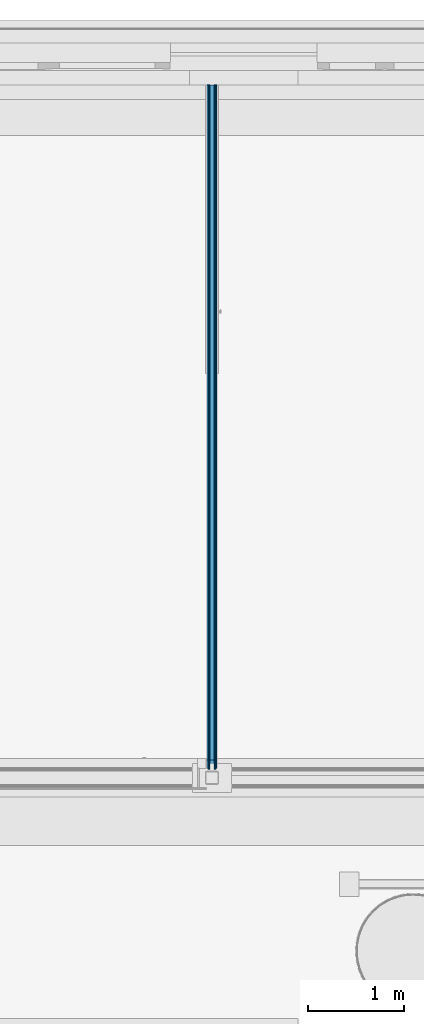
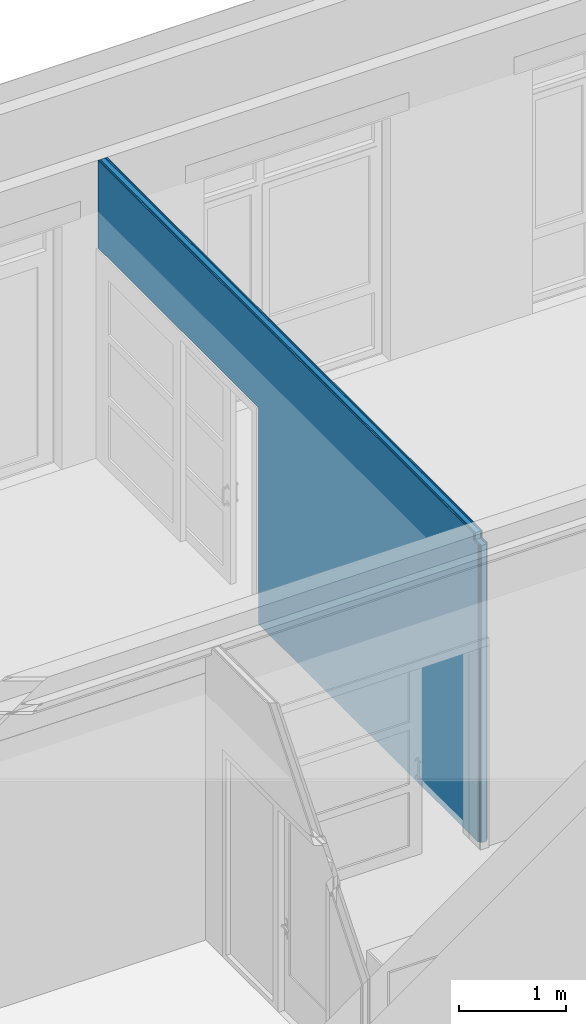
# One storey, part 395 of 788: 5 building element parts, 1 opening, 1 element without a shape of its own.
"""IFC2X3 building model written with IfcOpenShell, lengths in millimetres."""

import ifcopenshell
import ifcopenshell.guid

model = None  # the IFC model being written
_history = None  # IfcOwnerHistory: only IFC2X3 demands one
_inside = {}  # id of a spatial element -> (the spatial element, [elements in it])
_under = {}  # id of a project, library or spatial element -> (it, [spatial elements below it])
_declared = {}  # id of a project -> (the project, [libraries it declares])
_typed = {}  # id of a type object -> (the type object, [elements of that type])
_made_of = {}  # id of a material, layer set ... -> (it, [elements and type objects made of it])


def new_model(schema):
    """Start an empty IFC model of exactly this schema.

    Asked for "IFC4X3", IfcOpenShell would pick the latest addendum, in which some entities
    have other attributes; the version numbers below select the first issue.
    IFC2X3 requires an IfcOwnerHistory on every rooted entity: one is made here for all.
    """
    global model, _history
    if schema == "IFC4X3":
        model = ifcopenshell.file(schema_version=(4, 3, 0, 0))
    else:
        model = ifcopenshell.file(schema=schema)
    _inside.clear()
    _under.clear()
    _declared.clear()
    _typed.clear()
    _made_of.clear()
    _history = None
    if model.schema == "IFC2X3":
        org = make("IfcOrganization", Name="unknown")
        user = make(
            "IfcPersonAndOrganization",
            ThePerson=make("IfcPerson", FamilyName="unknown"),
            TheOrganization=org,
        )
        app = make(
            "IfcApplication",
            ApplicationDeveloper=org,
            Version="unknown",
            ApplicationFullName="unknown",
            ApplicationIdentifier="unknown",
        )
        _history = make(
            "IfcOwnerHistory",
            OwningUser=user,
            OwningApplication=app,
            ChangeAction="ADDED",
            CreationDate=0,
        )
    return model


def make(cls, **values):
    """One entity of the class cls with the attributes given. An attribute that is None is left unset."""
    return model.create_entity(
        cls, **{name: value for name, value in values.items() if value is not None}
    )


def entity(cls, *values):
    """Any entity or typed value of the class cls, its attributes in the order of the schema. None: left unset."""
    e = model.create_entity(cls)
    for i, value in enumerate(values):
        if value is not None:
            e[i] = value
    return e


def rooted(cls, **values):
    """An entity with a GlobalId (a new one), such as an element, a storey or a relation."""
    return make(cls, GlobalId=ifcopenshell.guid.new(), OwnerHistory=_history, **values)


def si_unit(unit_type, name, prefix=None):
    """IfcSIUnit, for example si_unit("LENGTHUNIT", "METRE", prefix="MILLI")."""
    return make("IfcSIUnit", UnitType=unit_type, Prefix=prefix, Name=name)


def converted_unit(unit_type, name, factor, base, dimensions=None, offset=None):
    """IfcConversionBasedUnit, such as the inch: factor (a typed value) times the base unit."""
    return make(
        "IfcConversionBasedUnit"
        if offset is None
        else "IfcConversionBasedUnitWithOffset",
        ConversionOffset=offset,
        Dimensions=None
        if dimensions is None
        else entity("IfcDimensionalExponents", *dimensions),
        UnitType=unit_type,
        Name=name,
        ConversionFactor=make(
            "IfcMeasureWithUnit", ValueComponent=factor, UnitComponent=base
        ),
    )


def derived_unit(unit_type, elements):
    """IfcDerivedUnit: a product of units, each with its exponent."""
    return make(
        "IfcDerivedUnit",
        Elements=[
            make("IfcDerivedUnitElement", Unit=unit, Exponent=power)
            for unit, power in elements
        ],
        UnitType=unit_type,
    )


def money_unit(currency):
    """IfcMonetaryUnit."""
    return make("IfcMonetaryUnit", Currency=currency)


def assignment(units):
    """IfcUnitAssignment: the units of a project."""
    return None if units is None else make("IfcUnitAssignment", Units=units)


def point(xyz):
    """IfcCartesianPoint."""
    return None if xyz is None else make("IfcCartesianPoint", Coordinates=xyz)


def direction(xyz):
    """IfcDirection."""
    return None if xyz is None else make("IfcDirection", DirectionRatios=xyz)


def frame(location, z_axis=None, x_axis=None):
    """IfcAxis2Placement3D, a coordinate frame: its origin and axes. An axis left out is left unset."""
    return make(
        "IfcAxis2Placement3D",
        Location=point(location),
        Axis=direction(z_axis),
        RefDirection=direction(x_axis),
    )


def origin_with_axes():
    """The frame at (0, 0, 0) with the z axis (0, 0, 1) and the x axis (1, 0, 0) written out."""
    return frame((0.0, 0.0, 0.0), z_axis=(0.0, 0.0, 1.0), x_axis=(1.0, 0.0, 0.0))


def place(relative_to, where):
    """IfcLocalPlacement: puts the frame where relative to a parent placement (None: the world)."""
    return make(
        "IfcLocalPlacement", PlacementRelTo=relative_to, RelativePlacement=where
    )


def context(
    kind, dimensions, precision=None, world=None, true_north=None, identifier=None
):
    """IfcGeometricRepresentationContext, for example the 3D "Model" context."""
    return make(
        "IfcGeometricRepresentationContext",
        ContextIdentifier=identifier,
        ContextType=kind,
        CoordinateSpaceDimension=dimensions,
        Precision=precision,
        WorldCoordinateSystem=world,
        TrueNorth=true_north,
    )


def subcontext(parent, identifier, kind, view, scale=None):
    """IfcGeometricRepresentationSubContext, for example "Body" below "Model"."""
    return make(
        "IfcGeometricRepresentationSubContext",
        ContextIdentifier=identifier,
        ContextType=kind,
        ParentContext=parent,
        TargetScale=scale,
        TargetView=view,
    )


def project(units=None, contexts=None):
    """IfcProject with its units and contexts."""
    return rooted(
        "IfcProject",
        Name="project",
        RepresentationContexts=contexts,
        UnitsInContext=assignment(units),
    )


def spatial(cls, under=None, at=None, **own):
    """A site, building, storey or space (cls), placed at a placement, below another one or the project."""
    s = rooted(cls, ObjectPlacement=at, **own)
    if under is not None:
        _under.setdefault(under.id(), (under, []))[1].append(s)
    return s


def faces_of(points, faces, orient=None, outer=None):
    """IfcFace entities. A face is a list of loops; a loop is a list of indices into points, from 0.

    orient and outer hold one flag for each loop. By default every Orientation is true, the
    first loop of a face is its IfcFaceOuterBound and the others are IfcFaceBound.
    """
    made = []
    for i, loops in enumerate(faces):
        bounds = []
        for j, loop in enumerate(loops):
            is_outer = j == 0 if outer is None else outer[i][j]
            bounds.append(
                make(
                    "IfcFaceOuterBound" if is_outer else "IfcFaceBound",
                    Bound=make("IfcPolyLoop", Polygon=[points[k] for k in loop]),
                    Orientation=True if orient is None else orient[i][j],
                )
            )
        made.append(make("IfcFace", Bounds=bounds))
    return made


def faceted_brep(points, faces, orient=None, outer=None, voids=None):
    """IfcFacetedBrep: a solid bounded by flat faces; with voids (closed shells), ...WithVoids."""
    shared = [point(p) for p in points]
    hull = make("IfcClosedShell", CfsFaces=faces_of(shared, faces, orient, outer))
    if voids is None:
        return make("IfcFacetedBrep", Outer=hull)
    return make(
        "IfcFacetedBrepWithVoids",
        Outer=hull,
        Voids=[
            make(cls, CfsFaces=faces_of(shared, fs, o, b)) for cls, fs, o, b in voids
        ],
    )


def shape(context_of_items, identifier, shape_type, items):
    """IfcShapeRepresentation: the items that make up one representation, for example the "Body"."""
    return make(
        "IfcShapeRepresentation",
        ContextOfItems=context_of_items,
        RepresentationIdentifier=identifier,
        RepresentationType=shape_type,
        Items=items,
    )


def material(Name=None, Category=None):
    """IfcMaterial."""
    return make("IfcMaterial", Name=Name, Category=Category)


def made_of(thing, what):
    """Note that an element or type object is made of a material, layer set ...; save() writes the relation."""
    if what is not None:
        _made_of.setdefault(what.id(), (what, []))[1].append(thing)
    return thing


def type_object(cls, material=None, **own):
    """A type object (cls), such as IfcWallType, which elements share."""
    return made_of(rooted(cls, **own), material)


def element(
    cls,
    number,
    at=None,
    inside=None,
    cuts=None,
    type_object=None,
    material=None,
    context=None,
    identifier="Body",
    shape_type=None,
    held_by="IfcProductDefinitionShape",
    body=None,
    shapes=None,
    **own,
):
    """One element of the class cls, such as IfcWall. Its Tag is "e" and its number.

    at: its placement. inside: the storey or other place that contains it. cuts: it is an
    opening in that element (IfcRelVoidsElement). A single representation is given by context,
    identifier, shape_type and body (its items); several are given by shapes. held_by: the class
    of the entity that holds the representations. save() writes the other relations.
    """
    e = rooted(cls, Tag="e%d" % number, ObjectPlacement=at, **own)
    if body is not None:
        shapes = [shape(context, identifier, shape_type, body)]
    if shapes is not None:
        e.Representation = make(held_by, Representations=shapes)
    if inside is not None:
        _inside.setdefault(inside.id(), (inside, []))[1].append(e)
    if cuts is not None:
        rooted(
            "IfcRelVoidsElement", RelatingBuildingElement=cuts, RelatedOpeningElement=e
        )
    if type_object is not None:
        _typed.setdefault(type_object.id(), (type_object, []))[1].append(e)
    return made_of(e, material)


def aggregate(whole, parts):
    """IfcRelAggregates: a whole, such as a stair, and the parts it consists of."""
    return rooted("IfcRelAggregates", RelatingObject=whole, RelatedObjects=parts)


def save(model, path):
    """Write the relations noted so far, then the file.

    IfcRelAggregates (storeys below a building ...), IfcRelContainedInSpatialStructure (elements
    in a storey), IfcRelDefinesByType, IfcRelAssociatesMaterial and IfcRelDeclares: one each for
    every whole, place, type object, material and project.
    """
    for whole, parts in _under.values():
        aggregate(whole, parts)
    for where, things in _inside.values():
        rooted(
            "IfcRelContainedInSpatialStructure",
            RelatedElements=things,
            RelatingStructure=where,
        )
    for kind, things in _typed.values():
        rooted("IfcRelDefinesByType", RelatedObjects=things, RelatingType=kind)
    for what, things in _made_of.values():
        rooted("IfcRelAssociatesMaterial", RelatedObjects=things, RelatingMaterial=what)
    for by, libraries in _declared.values():
        rooted("IfcRelDeclares", RelatingContext=by, RelatedDefinitions=libraries)
    model.write(path)


model = new_model("IFC2X3")

# Units and contexts
model_context = context("Model", 3, precision=0.01, world=origin_with_axes(), true_north=direction((0.0, 1.0)))
plan_context = context("Plan", 3, precision=0.01, world=origin_with_axes(), true_north=direction((0.0, 1.0)))
body_context = subcontext(model_context, "Body", "Model", "MODEL_VIEW")
ifc_project = project(units=[si_unit("LENGTHUNIT", "METRE", prefix="MILLI"), si_unit("AREAUNIT", "SQUARE_METRE"), si_unit("VOLUMEUNIT", "CUBIC_METRE"), converted_unit("PLANEANGLEUNIT", "DEGREE", entity("IfcPlaneAngleMeasure", 0.0174532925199), si_unit("PLANEANGLEUNIT", "RADIAN"), dimensions=[0, 0, 0, 0, 0, 0, 0]), money_unit("EUR"), converted_unit("TIMEUNIT", "Year", entity("IfcTimeMeasure", 31556926.0), si_unit("TIMEUNIT", "SECOND"), dimensions=[0, 0, 1, 0, 0, 0, 0]), si_unit("MASSUNIT", "GRAM", prefix="KILO"), si_unit("THERMODYNAMICTEMPERATUREUNIT", "DEGREE_CELSIUS"), si_unit("LUMINOUSINTENSITYUNIT", "LUMEN"), si_unit("ENERGYUNIT", "JOULE", prefix="MEGA"), derived_unit("THERMALCONDUCTANCEUNIT", [(si_unit("POWERUNIT", "WATT"), 1), (si_unit("LENGTHUNIT", "METRE"), -1), (si_unit("THERMODYNAMICTEMPERATUREUNIT", "KELVIN"), -1)]), derived_unit("SPECIFICHEATCAPACITYUNIT", [(si_unit("ENERGYUNIT", "JOULE"), 1), (si_unit("MASSUNIT", "GRAM", prefix="KILO"), -1), (si_unit("THERMODYNAMICTEMPERATUREUNIT", "KELVIN"), -1)]), derived_unit("MASSDENSITYUNIT", [(si_unit("MASSUNIT", "GRAM", prefix="KILO"), 1), (si_unit("VOLUMEUNIT", "CUBIC_METRE"), -1)])], contexts=[model_context, plan_context])

# Site, building, storey
site_placement = place(None, origin_with_axes())
site = spatial("IfcSite", under=ifc_project, at=site_placement, Name="Site", CompositionType="ELEMENT")
building_placement = place(site_placement, origin_with_axes())
building = spatial("IfcBuilding", under=site, at=building_placement, Name="Naam gebouw", CompositionType="ELEMENT")
storey_placement = place(building_placement, origin_with_axes())
storey = spatial("IfcBuildingStorey", under=building, at=storey_placement, Name="Begane grond", CompositionType="ELEMENT", Elevation=0.0)

# Wall, opening, building element parts
wall_type = type_object("IfcWallType", Name="22 Metalstud 100mm 100", PredefinedType="ELEMENTEDWALL")
wall_placement = place(storey_placement, frame((10718.9828621, 27979.9913222, -70.0), z_axis=(0.0, 0.0, 1.0), x_axis=(0.0, 1.0, 0.0)))
wall = element("IfcWall", 1, at=wall_placement, inside=storey, type_object=wall_type, Name="Binnenwand")
opening_placement = place(wall_placement, frame((5700.0017549, 0.0, 70.0), z_axis=(0.0, 0.0, 1.0), x_axis=(1.0, 0.0, 0.0)))
element("IfcOpeningElement", 2, at=opening_placement, cuts=wall, Name="s.02", context=body_context, shape_type="Brep", body=[
    faceted_brep([(1500.0, -100.0, 2400.0), (1500.0, -100.0, 0.0), (1500.0, 219.5, 0.0), (1500.0, 219.5, 2400.0), (-1500.0, -100.0, 2400.0), (-1500.0, -100.0, 0.0), (-1500.0, 219.5, 0.0), (-1500.0, 219.5, 2400.0)], [[[0, 1, 2, 3]], [[0, 4, 5, 1]], [[1, 5, 6, 2]], [[3, 2, 6, 7]], [[4, 0, 3, 7]], [[5, 4, 7, 6]]]),
])
ifc_material_1 = material(Name="Gipsplaat")
building_element_part_1_placement = place(wall_placement, origin_with_axes())
building_element_part_1 = element("IfcBuildingElementPart", 3, at=building_element_part_1_placement, material=ifc_material_1, Name="Gipsplaat", context=body_context, shape_type="Brep", body=[
    faceted_brep([(4200.0017549, 37.5, 70.0), (4200.0017549, 37.5, 2470.0), (7200.0017549, 37.5, 2470.0), (7200.0017549, 37.5, 3470.0), (187.000000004, 37.5, 3470.0), (187.000000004, 37.5, 3390.0), (100.0, 37.5, 3390.0), (100.0, 37.5, 0.0), (4200.0017549, 37.5, 0.0), (4200.0017549, 50.0, 70.0), (4200.0017549, 50.0, 2470.0), (7200.0017549, 50.0, 2470.0), (7200.0017549, 50.0, 3470.0), (187.000000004, 50.0, 3470.0), (187.000000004, 50.0, 3390.0), (100.0, 50.0, 3390.0), (100.0, 50.0, 0.0), (4200.0017549, 50.0, 0.0)], [[[0, 1, 2, 3, 4, 5, 6, 7, 8]], [[1, 0, 9, 10]], [[11, 2, 1, 10]], [[2, 11, 12, 3]], [[4, 3, 12, 13]], [[13, 14, 5, 4]], [[5, 14, 15, 6]], [[15, 16, 7, 6]], [[17, 8, 7, 16]], [[9, 0, 8, 17]], [[10, 9, 17, 16, 15, 14, 13, 12, 11]]]),
])
building_element_part_2_placement = place(wall_placement, origin_with_axes())
building_element_part_2 = element("IfcBuildingElementPart", 4, at=building_element_part_2_placement, material=ifc_material_1, Name="Gipsplaat", context=body_context, shape_type="Brep", body=[
    faceted_brep([(4200.0017549, 25.0, 70.0), (4200.0017549, 25.0, 2470.0), (7200.0017549, 25.0, 2470.0), (7200.0017549, 25.0, 3470.0), (187.000000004, 25.0, 3470.0), (187.000000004, 25.0, 3390.0), (87.5, 25.0, 3390.0), (87.5, 25.0, 0.0), (4200.0017549, 25.0, 0.0), (4200.0017549, 37.5, 70.0), (4200.0017549, 37.5, 2470.0), (7200.0017549, 37.5, 2470.0), (7200.0017549, 37.5, 3470.0), (187.000000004, 37.5, 3470.0), (187.000000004, 37.5, 3390.0), (87.5, 37.5, 3390.0), (87.5, 37.5, 0.0), (4200.0017549, 37.5, 0.0)], [[[0, 1, 2, 3, 4, 5, 6, 7, 8]], [[1, 0, 9, 10]], [[11, 2, 1, 10]], [[2, 11, 12, 3]], [[4, 3, 12, 13]], [[13, 14, 5, 4]], [[5, 14, 15, 6]], [[15, 16, 7, 6]], [[17, 8, 7, 16]], [[9, 0, 8, 17]], [[10, 9, 17, 16, 15, 14, 13, 12, 11]]]),
])
ifc_material_2 = material(Name="Isolatie - Steenwol LSW")
building_element_part_3_placement = place(wall_placement, origin_with_axes())
building_element_part_3 = element("IfcBuildingElementPart", 5, at=building_element_part_3_placement, material=ifc_material_2, Name="Isolatie - Steenwol LSW", context=body_context, shape_type="Brep", body=[
    faceted_brep([(4200.0017549, -25.0, 70.0), (4200.0017549, -25.0, 2470.0), (7200.0017549, -25.0, 2470.0), (7200.0017549, -25.0, 3470.0), (187.000000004, -25.0, 3470.0), (187.000000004, -25.0, 3390.0), (75.0, -25.0, 3390.0), (75.0, -25.0, 0.0), (4200.0017549, -25.0, 0.0), (4200.0017549, 25.0, 70.0), (4200.0017549, 25.0, 2470.0), (7200.0017549, 25.0, 2470.0), (7200.0017549, 25.0, 3470.0), (187.000000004, 25.0, 3470.0), (187.000000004, 25.0, 3390.0), (75.0, 25.0, 3390.0), (75.0, 25.0, 0.0), (4200.0017549, 25.0, 0.0)], [[[0, 1, 2, 3, 4, 5, 6, 7, 8]], [[1, 0, 9, 10]], [[11, 2, 1, 10]], [[2, 11, 12, 3]], [[4, 3, 12, 13]], [[13, 14, 5, 4]], [[5, 14, 15, 6]], [[15, 16, 7, 6]], [[17, 8, 7, 16]], [[9, 0, 8, 17]], [[10, 9, 17, 16, 15, 14, 13, 12, 11]]]),
])
building_element_part_4_placement = place(wall_placement, origin_with_axes())
building_element_part_4 = element("IfcBuildingElementPart", 6, at=building_element_part_4_placement, material=ifc_material_1, Name="Gipsplaat", context=body_context, shape_type="Brep", body=[
    faceted_brep([(4200.0017549, -37.5, 70.0), (4200.0017549, -37.5, 2470.0), (7200.0017549, -37.5, 2470.0), (7200.0017549, -37.5, 3470.0), (187.000000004, -37.5, 3470.0), (187.000000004, -37.5, 3390.0), (87.5, -37.5, 3390.0), (87.5, -37.5, 0.0), (4200.0017549, -37.5, 0.0), (4200.0017549, -25.0, 70.0), (4200.0017549, -25.0, 2470.0), (7200.0017549, -25.0, 2470.0), (7200.0017549, -25.0, 3470.0), (187.000000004, -25.0, 3470.0), (187.000000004, -25.0, 3390.0), (87.5, -25.0, 3390.0), (87.5, -25.0, 0.0), (4200.0017549, -25.0, 0.0)], [[[0, 1, 2, 3, 4, 5, 6, 7, 8]], [[1, 0, 9, 10]], [[11, 2, 1, 10]], [[2, 11, 12, 3]], [[4, 3, 12, 13]], [[13, 14, 5, 4]], [[5, 14, 15, 6]], [[15, 16, 7, 6]], [[17, 8, 7, 16]], [[9, 0, 8, 17]], [[10, 9, 17, 16, 15, 14, 13, 12, 11]]]),
])
building_element_part_5_placement = place(wall_placement, origin_with_axes())
building_element_part_5 = element("IfcBuildingElementPart", 7, at=building_element_part_5_placement, material=ifc_material_1, Name="Gipsplaat", context=body_context, shape_type="Brep", body=[
    faceted_brep([(4200.0017549, -50.0, 70.0), (4200.0017549, -50.0, 2470.0), (7200.0017549, -50.0, 2470.0), (7200.0017549, -50.0, 3470.0), (187.000000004, -50.0, 3470.0), (187.000000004, -50.0, 3390.0), (100.0, -50.0, 3390.0), (100.0, -50.0, 0.0), (4200.0017549, -50.0, 0.0), (4200.0017549, -37.5, 70.0), (4200.0017549, -37.5, 2470.0), (7200.0017549, -37.5, 2470.0), (7200.0017549, -37.5, 3470.0), (187.000000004, -37.5, 3470.0), (187.000000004, -37.5, 3390.0), (100.0, -37.5, 3390.0), (100.0, -37.5, 0.0), (4200.0017549, -37.5, 0.0)], [[[0, 1, 2, 3, 4, 5, 6, 7, 8]], [[1, 0, 9, 10]], [[11, 2, 1, 10]], [[2, 11, 12, 3]], [[4, 3, 12, 13]], [[13, 14, 5, 4]], [[5, 14, 15, 6]], [[15, 16, 7, 6]], [[17, 8, 7, 16]], [[9, 0, 8, 17]], [[10, 9, 17, 16, 15, 14, 13, 12, 11]]]),
])
aggregate(wall, [building_element_part_1, building_element_part_2, building_element_part_3, building_element_part_4, building_element_part_5])

save(model, "model.ifc")
